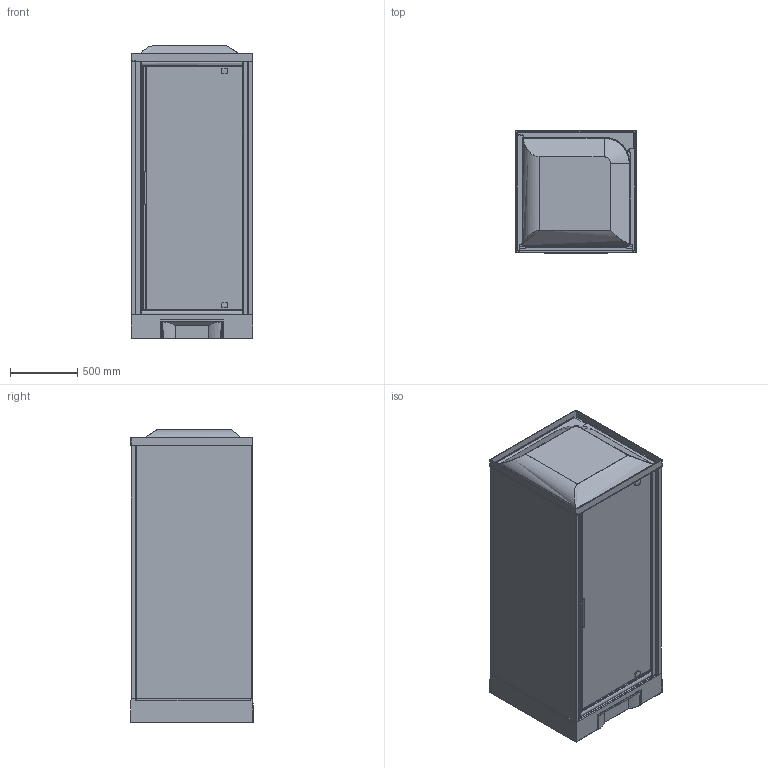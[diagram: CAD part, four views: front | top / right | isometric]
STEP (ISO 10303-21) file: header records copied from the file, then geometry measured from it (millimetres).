
FILE_DESCRIPTION(('STEP AP203'),'2;1');
FILE_NAME('NNH BI 90 M T.stp','2015-09-04T15:00:02',(''),(''),'2014.1.117','THINKDESIGN','');
FILE_SCHEMA(('CONFIG_CONTROL_DESIGN'));
Bounding box: 904 x 907.51 x 2170 mm (x, y, z)
Volume: 258507915.3 mm3; surface area: 20611946.6 mm2
Topology: 25 solids, 25 shells, 662 faces, 1637 edges, 1028 vertices
Faces by surface type: bspline 409, plane 185, cylinder 68
Entity records: 104615 total; most frequent: CARTESIAN_POINT 91630, ORIENTED_EDGE 3234, EDGE_CURVE 1617, DIRECTION 1540, VERTEX_POINT 1024, VECTOR 712, LINE 712, EDGE_LOOP 679
